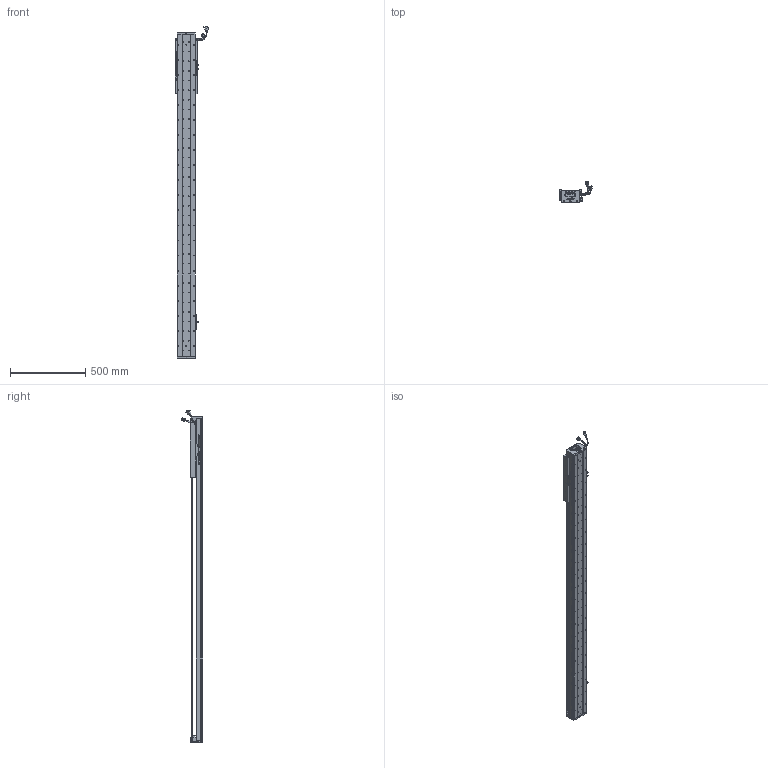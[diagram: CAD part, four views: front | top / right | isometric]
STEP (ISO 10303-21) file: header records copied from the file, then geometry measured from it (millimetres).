
FILE_DESCRIPTION (( 'STEP AP203' ), '1' );
FILE_NAME ('Z5-RY120D-1-L500-B-K.SLDASM_1700.step', '2021-05-17T06:23:41', ( '盈信电脑' ), ( '东莞市道滘镇水果街19号' ), 'SwSTEP 2.0', 'SolidWorks 2016', '' );
FILE_SCHEMA (( 'CONFIG_CONTROL_DESIGN' ));
Length unit declared in the file: millimetre
Products named in the file (37): SCREW-M1.7; COVER-Part-1; 覜茼ん672; SHIELDPLATE; 080黍杅芛假蚾釱21遴; SCALE-Part-2; SCREW-M1.7-1; HARNESS; RY100FB-遵嫖萇覜茼え; SCALE-Part-1; Z5-RY120铝滑块（21款）; Z-RY120D詩湍奻揤裔; PSLH080_PSLF2; 140蚥薯蝶輸; Z5-RY120-500-倰第菁釱_1700; SEAL-Part-1; 120-Z-臏賑輸盄裔(21遴); LABEL; SCALE; Z5-RY120-L500詩湍100mm遵_1700; SCREW-M1.6-1; Z-RY120D詩湍狟揤裔; 140雄赽晤鎢ん堤盄; PBU_SHEET; SCREW-M1.6-2; HARNESS-Part-2; SCREW-M1.6-3; Z-120詩湍傷裔啣; SEAL; COVER; 榋妏寠巭燃_暯_M2_2; Z5-RY120D-1-L500-B-K.SLDASM_1700; HARNESS-Part-1; LABEL-Part-1; 672嫖萇羲壽假蚾釱; HOLDER0; SCREW-M1.6
Assembly tree (43 placements, depth 4):
  Z5-RY120D-1-L500-B-K.SLDASM_1700
    Z5-RY120-500-倰第菁釱_1700
    覜茼ん672  x3
    672嫖萇羲壽假蚾釱  x2
    Z5-RY120铝滑块（21款）
    PSLH080_PSLF2
      SCALE
        SCALE-Part-1
        SCALE-Part-2
      HARNESS
        HARNESS-Part-1
        HARNESS-Part-2
      LABEL
        LABEL-Part-1
      COVER
        COVER-Part-1
      SEAL
        SEAL-Part-1
      榋妏寠巭燃_暯_M2_2
      SHIELDPLATE
      SCREW-M1.7
      SCREW-M1.7-1
      PBU_SHEET
      SCREW-M1.6
      SCREW-M1.6-1
      SCREW-M1.6-2
      SCREW-M1.6-3
      HOLDER0
    080黍杅芛假蚾釱21遴
    120-Z-臏賑輸盄裔(21遴)
    140雄赽晤鎢ん堤盄
    140蚥薯蝶輸  x2
    RY100FB-遵嫖萇覜茼え
    Z-120詩湍傷裔啣  x2
    Z-RY120D詩湍奻揤裔  x2
    Z-RY120D詩湍狟揤裔  x2
    Z5-RY120-L500詩湍100mm遵_1700
Bounding box: 222.88 x 140.94 x 2203.99 mm (x, y, z)
Volume: 5673172.7 mm3; surface area: 1904881.1 mm2
Topology: 38 solids, 38 shells, 3473 faces, 9729 edges, 6144 vertices
Faces by surface type: cylinder 1783, plane 1218, cone 350, torus 69, bspline 53
Entity records: 113298 total; most frequent: CARTESIAN_POINT 33383, ORIENTED_EDGE 16282, DIRECTION 15295, EDGE_CURVE 8141, AXIS2_PLACEMENT_3D 5666, VERTEX_POINT 5264, VECTOR 3963, LINE 3963
